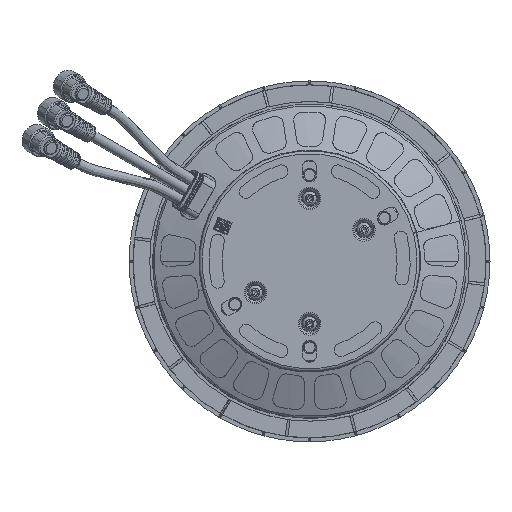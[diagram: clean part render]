
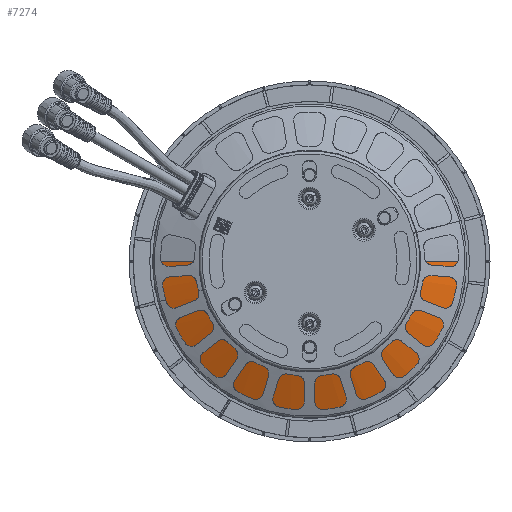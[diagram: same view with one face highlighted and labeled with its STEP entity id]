
A CAD part, top view. The second image highlights one B-rep face of the part: STEP entity #7274.
In plain terms, the highlighted conical face has half-angle 67.886 degrees and reference radius 59.27 mm.
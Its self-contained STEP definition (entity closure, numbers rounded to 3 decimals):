
#596 = CARTESIAN_POINT ( 'NONE',  ( 59.271, 0., 21.737 ) ) ;
#3985 = EDGE_LOOP ( 'NONE', ( #82603, #94607, #75322, #114127, #43867 ) ) ;
#7274 = ADVANCED_FACE ( 'NONE', ( #88641 ), #108601, .T. ) ;
#14914 = LINE ( 'NONE', #108335, #122329 ) ;
#16948 = CARTESIAN_POINT ( 'NONE',  ( -57.038, -15.283, 21.826 ) ) ;
#17771 = CIRCLE ( 'NONE', #97143, 59.05 ) ;
#18367 = CARTESIAN_POINT ( 'NONE',  ( 0., 0., 21.826 ) ) ;
#23999 = DIRECTION ( 'NONE',  ( -1., 0., 0. ) ) ;
#24238 = DIRECTION ( 'NONE',  ( 0., 0., -1. ) ) ;
#24729 = VERTEX_POINT ( 'NONE', #120496 ) ;
#25659 = VERTEX_POINT ( 'NONE', #99414 ) ;
#26967 = EDGE_CURVE ( 'NONE', #121628, #120254, #90854, .T. ) ;
#26989 = CIRCLE ( 'NONE', #67845, 41.15 ) ;
#28503 = EDGE_CURVE ( 'NONE', #94001, #25659, #33761, .T. ) ;
#29469 = CARTESIAN_POINT ( 'NONE',  ( -59.05, 0., 21.826 ) ) ;
#30579 = DIRECTION ( 'NONE',  ( -1., 0., 0. ) ) ;
#33761 = LINE ( 'NONE', #596, #95188 ) ;
#43867 = ORIENTED_EDGE ( 'NONE', *, *, #81725, .F. ) ;
#64299 = DIRECTION ( 'NONE',  ( -1., 0., 0. ) ) ;
#67845 = AXIS2_PLACEMENT_3D ( 'NONE', #126382, #103087, #23999 ) ;
#68063 = CARTESIAN_POINT ( 'NONE',  ( 41.15, 0., 29.1 ) ) ;
#70169 = DIRECTION ( 'NONE',  ( -1., 0., 0. ) ) ;
#72229 = DIRECTION ( 'NONE',  ( -0.926, 0., -0.376 ) ) ;
#75322 = ORIENTED_EDGE ( 'NONE', *, *, #145127, .T. ) ;
#81725 = EDGE_CURVE ( 'NONE', #25659, #121628, #17771, .T. ) ;
#82603 = ORIENTED_EDGE ( 'NONE', *, *, #28503, .F. ) ;
#88641 = FACE_OUTER_BOUND ( 'NONE', #3985, .T. ) ;
#90854 = CIRCLE ( 'NONE', #114848, 59.05 ) ;
#94001 = VERTEX_POINT ( 'NONE', #68063 ) ;
#94607 = ORIENTED_EDGE ( 'NONE', *, *, #130029, .T. ) ;
#95188 = VECTOR ( 'NONE', #115837, 1000. ) ;
#97143 = AXIS2_PLACEMENT_3D ( 'NONE', #18367, #110249, #64299 ) ;
#97634 = CARTESIAN_POINT ( 'NONE',  ( 0., 0., 21.737 ) ) ;
#99414 = CARTESIAN_POINT ( 'NONE',  ( 59.05, 0., 21.826 ) ) ;
#103087 = DIRECTION ( 'NONE',  ( 0., 0., -1. ) ) ;
#108335 = CARTESIAN_POINT ( 'NONE',  ( -59.271, 0., 21.737 ) ) ;
#108601 = CONICAL_SURFACE ( 'NONE', #123017, 59.271, 1.185 ) ;
#108912 = DIRECTION ( 'NONE',  ( 0., 0., -1. ) ) ;
#110249 = DIRECTION ( 'NONE',  ( 0., 0., -1. ) ) ;
#114127 = ORIENTED_EDGE ( 'NONE', *, *, #26967, .F. ) ;
#114848 = AXIS2_PLACEMENT_3D ( 'NONE', #116070, #24238, #70169 ) ;
#115837 = DIRECTION ( 'NONE',  ( 0.926, 0., -0.376 ) ) ;
#116070 = CARTESIAN_POINT ( 'NONE',  ( 0., 0., 21.826 ) ) ;
#120254 = VERTEX_POINT ( 'NONE', #29469 ) ;
#120496 = CARTESIAN_POINT ( 'NONE',  ( -41.15, 0., 29.1 ) ) ;
#121628 = VERTEX_POINT ( 'NONE', #16948 ) ;
#122329 = VECTOR ( 'NONE', #72229, 1000. ) ;
#123017 = AXIS2_PLACEMENT_3D ( 'NONE', #97634, #108912, #30579 ) ;
#126382 = CARTESIAN_POINT ( 'NONE',  ( 0., 0., 29.1 ) ) ;
#130029 = EDGE_CURVE ( 'NONE', #94001, #24729, #26989, .T. ) ;
#145127 = EDGE_CURVE ( 'NONE', #24729, #120254, #14914, .T. ) ;
